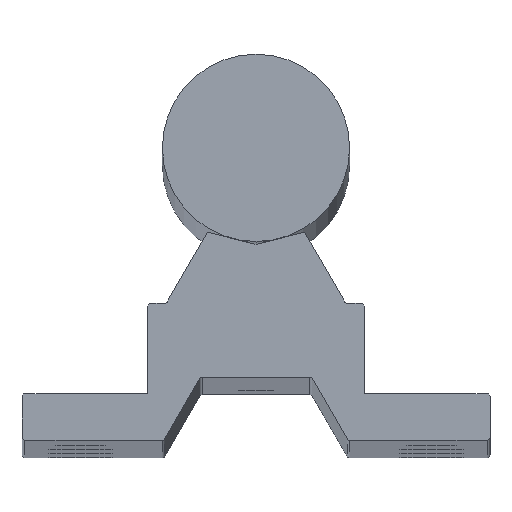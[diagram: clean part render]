
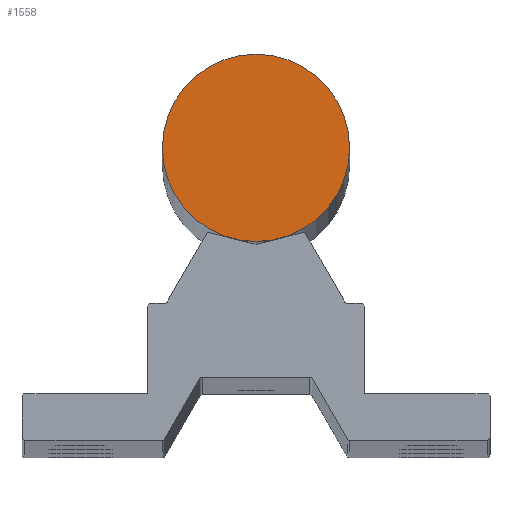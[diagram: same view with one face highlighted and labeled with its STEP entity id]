
A CAD part, top view. The second image highlights one B-rep face of the part: STEP entity #1558.
In plain terms, the highlighted planar face has unit normal (0, 0, 1).
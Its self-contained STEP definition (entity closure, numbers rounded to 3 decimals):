
#90 = AXIS2_PLACEMENT_3D ( 'NONE', #574, #2553, #358 ) ;
#340 = ORIENTED_EDGE ( 'NONE', *, *, #1416, .T. ) ;
#344 = CIRCLE ( 'NONE', #656, 8. ) ;
#358 = DIRECTION ( 'NONE',  ( 1., 0., 0. ) ) ;
#574 = CARTESIAN_POINT ( 'NONE',  ( 0., 0., 425. ) ) ;
#632 = EDGE_CURVE ( 'NONE', #2554, #2294, #344, .T. ) ;
#656 = AXIS2_PLACEMENT_3D ( 'NONE', #2023, #2865, #2361 ) ;
#659 = EDGE_LOOP ( 'NONE', ( #3212, #340 ) ) ;
#761 = AXIS2_PLACEMENT_3D ( 'NONE', #2947, #2457, #2706 ) ;
#977 = CARTESIAN_POINT ( 'NONE',  ( -8., 0., 425. ) ) ;
#1416 = EDGE_CURVE ( 'NONE', #2294, #2554, #1939, .T. ) ;
#1558 = ADVANCED_FACE ( 'NONE', ( #2797 ), #2538, .T. ) ;
#1939 = CIRCLE ( 'NONE', #761, 8. ) ;
#2023 = CARTESIAN_POINT ( 'NONE',  ( 0., 0., 425. ) ) ;
#2294 = VERTEX_POINT ( 'NONE', #3033 ) ;
#2361 = DIRECTION ( 'NONE',  ( 1., 0., 0. ) ) ;
#2457 = DIRECTION ( 'NONE',  ( 0., 0., 1. ) ) ;
#2538 = PLANE ( 'NONE',  #90 ) ;
#2553 = DIRECTION ( 'NONE',  ( 0., 0., 1. ) ) ;
#2554 = VERTEX_POINT ( 'NONE', #977 ) ;
#2706 = DIRECTION ( 'NONE',  ( 1., 0., 0. ) ) ;
#2797 = FACE_OUTER_BOUND ( 'NONE', #659, .T. ) ;
#2865 = DIRECTION ( 'NONE',  ( 0., 0., 1. ) ) ;
#2947 = CARTESIAN_POINT ( 'NONE',  ( 0., 0., 425. ) ) ;
#3033 = CARTESIAN_POINT ( 'NONE',  ( 8., 0., 425. ) ) ;
#3212 = ORIENTED_EDGE ( 'NONE', *, *, #632, .T. ) ;
